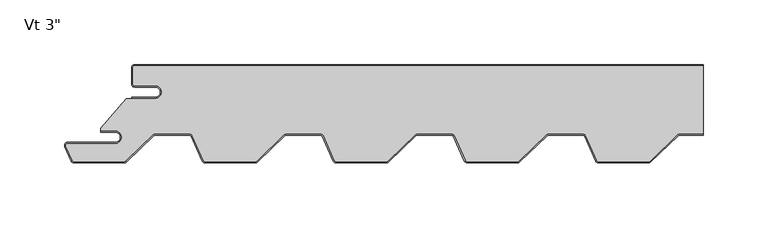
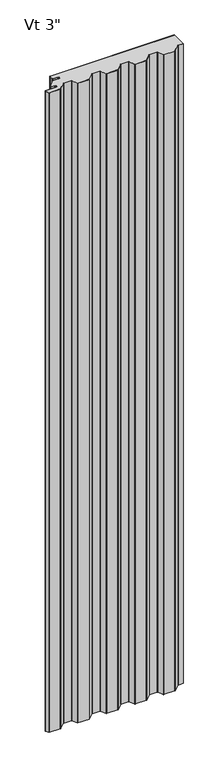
"""IFC4 building model written with IfcOpenShell, lengths in millimetres: plate geometry."""

from ifc_helpers import new_model, si_unit, point, frame_2d, origin, origin_with_axes, place, context, project, spatial, polyline, circle_curve, trimmed, segment, composite_curve, outline, extrude, source, transform, mapped, element, save


def plate_04d943ac(model_context):
    return source(origin(), model_context, "Body", "SweptSolid", [
        extrude(outline(composite_curve([segment(trimmed(circle_curve(frame_2d((-202.9499998, -21.4324412)), 4.96875), [point((-202.9499998, -26.4011912))], [point((-202.9499998, -16.4636912))], True, "CARTESIAN"), True, "CONTINUOUS"), segment(polyline([(-202.9499998, -16.4636912), (-218.8249998, -16.4636912)]), True, "CONTINUOUS"), segment(trimmed(circle_curve(frame_2d((-218.8249998, -15.0824412)), 1.38125), [point((-218.8249998, -16.4636912))], [point((-220.2062498, -15.0824412))], False, "CARTESIAN"), True, "CONTINUOUS"), segment(polyline([(-220.2062498, -15.0824412), (-220.2062498, -2.3824412)]), True, "CONTINUOUS"), segment(trimmed(circle_curve(frame_2d((-218.8249998, -2.3824412)), 1.38125), [point((-220.2062498, -2.3824412))], [point((-218.8249998, -1.0011912))], False, "CARTESIAN"), True, "CONTINUOUS"), segment(polyline([(-218.8249998, -1.0011912), (221.9999998, -1.0011912), (221.9999998, -53.6862), (203.4679504, -53.6862)]), True, "CONTINUOUS"), segment(trimmed(circle_curve(frame_2d((203.4679504, -56.2737)), 2.5875), [point((203.4679504, -53.6862))], [point((201.6682998, -54.4145567))], True, "CARTESIAN"), True, "CONTINUOUS"), segment(polyline([(201.6682998, -54.4145567), (180.5973964, -74.8111912)]), True, "CONTINUOUS"), segment(trimmed(circle_curve(frame_2d((179.6367133, -73.81875)), 1.38125), [point((180.5973964, -74.8111912))], [point((179.6367133, -75.2))], False, "CARTESIAN"), True, "CONTINUOUS"), segment(polyline([(179.6367133, -75.2), (140.5000059, -75.2)]), True, "CONTINUOUS"), segment(trimmed(circle_curve(frame_2d((140.5000059, -73.81875)), 1.38125), [point((140.5000059, -75.2))], [point((139.2370056, -74.3779296))], False, "CARTESIAN"), True, "CONTINUOUS"), segment(polyline([(139.2370056, -74.3779296), (130.7577807, -55.2261871)]), True, "CONTINUOUS"), segment(trimmed(circle_curve(frame_2d((128.3917983, -56.2737)), 2.5875), [point((130.7577807, -55.2261871))], [point((128.3917983, -53.6862))], True, "CARTESIAN"), True, "CONTINUOUS"), segment(polyline([(128.3917983, -53.6862), (101.8679504, -53.6862)]), True, "CONTINUOUS"), segment(trimmed(circle_curve(frame_2d((101.8679504, -56.2737)), 2.5875), [point((101.8679504, -53.6862))], [point((100.0682998, -54.4145567))], True, "CARTESIAN"), True, "CONTINUOUS"), segment(polyline([(100.0682998, -54.4145567), (78.9973964, -74.8111912)]), True, "CONTINUOUS"), segment(trimmed(circle_curve(frame_2d((78.0367133, -73.81875)), 1.38125), [point((78.9973964, -74.8111912))], [point((78.0367133, -75.2))], False, "CARTESIAN"), True, "CONTINUOUS"), segment(polyline([(78.0367133, -75.2), (38.9000059, -75.2)]), True, "CONTINUOUS"), segment(trimmed(circle_curve(frame_2d((38.9000059, -73.81875)), 1.38125), [point((38.9000059, -75.2))], [point((37.6370056, -74.3779296))], False, "CARTESIAN"), True, "CONTINUOUS"), segment(polyline([(37.6370056, -74.3779296), (29.1577807, -55.2261871)]), True, "CONTINUOUS"), segment(trimmed(circle_curve(frame_2d((26.7917983, -56.2737)), 2.5875), [point((29.1577807, -55.2261871))], [point((26.7917983, -53.6862))], True, "CARTESIAN"), True, "CONTINUOUS"), segment(polyline([(26.7917983, -53.6862), (0.2679504, -53.6862)]), True, "CONTINUOUS"), segment(trimmed(circle_curve(frame_2d((0.2679504, -56.2737)), 2.5875), [point((0.2679504, -53.6862))], [point((-1.5317002, -54.4145567))], True, "CARTESIAN"), True, "CONTINUOUS"), segment(polyline([(-1.5317002, -54.4145567), (-22.6026036, -74.8111912)]), True, "CONTINUOUS"), segment(trimmed(circle_curve(frame_2d((-23.5632867, -73.81875)), 1.38125), [point((-22.6026036, -74.8111912))], [point((-23.5632867, -75.2))], False, "CARTESIAN"), True, "CONTINUOUS"), segment(polyline([(-23.5632867, -75.2), (-62.6999941, -75.2)]), True, "CONTINUOUS"), segment(trimmed(circle_curve(frame_2d((-62.6999941, -73.81875)), 1.38125), [point((-62.6999941, -75.2))], [point((-63.9629944, -74.3779296))], False, "CARTESIAN"), True, "CONTINUOUS"), segment(polyline([(-63.9629944, -74.3779296), (-72.4422193, -55.2261871)]), True, "CONTINUOUS"), segment(trimmed(circle_curve(frame_2d((-74.8082017, -56.2737)), 2.5875), [point((-72.4422193, -55.2261871))], [point((-74.8082017, -53.6862))], True, "CARTESIAN"), True, "CONTINUOUS"), segment(polyline([(-74.8082017, -53.6862), (-101.3320496, -53.6862)]), True, "CONTINUOUS"), segment(trimmed(circle_curve(frame_2d((-101.3320496, -56.2737)), 2.5875), [point((-101.3320496, -53.6862))], [point((-103.1317002, -54.4145567))], True, "CARTESIAN"), True, "CONTINUOUS"), segment(polyline([(-103.1317002, -54.4145567), (-124.2026036, -74.8111912)]), True, "CONTINUOUS"), segment(trimmed(circle_curve(frame_2d((-125.1632867, -73.81875)), 1.38125), [point((-124.2026036, -74.8111912))], [point((-125.1632867, -75.2))], False, "CARTESIAN"), True, "CONTINUOUS"), segment(polyline([(-125.1632867, -75.2), (-164.2999941, -75.2)]), True, "CONTINUOUS"), segment(trimmed(circle_curve(frame_2d((-164.2999941, -73.81875)), 1.38125), [point((-164.2999941, -75.2))], [point((-165.5629944, -74.3779296))], False, "CARTESIAN"), True, "CONTINUOUS"), segment(polyline([(-165.5629944, -74.3779296), (-174.0422193, -55.2261871)]), True, "CONTINUOUS"), segment(trimmed(circle_curve(frame_2d((-176.4082017, -56.2737)), 2.5875), [point((-174.0422193, -55.2261871))], [point((-176.4082017, -53.6862))], True, "CARTESIAN"), True, "CONTINUOUS"), segment(polyline([(-176.4082017, -53.6862), (-202.9320496, -53.6862)]), True, "CONTINUOUS"), segment(trimmed(circle_curve(frame_2d((-202.9320496, -56.2737)), 2.5875), [point((-202.9320496, -53.6862))], [point((-204.7317002, -54.4145567))], True, "CARTESIAN"), True, "CONTINUOUS"), segment(polyline([(-204.7317002, -54.4145567), (-225.593943, -74.6092077)]), True, "CONTINUOUS"), segment(trimmed(circle_curve(frame_2d((-227.0536944, -73.1012)), 2.0988), [point((-225.593943, -74.6092077))], [point((-227.0536944, -75.2))], False, "CARTESIAN"), True, "CONTINUOUS"), segment(polyline([(-227.0536944, -75.2), (-265.8999941, -75.2)]), True, "CONTINUOUS"), segment(trimmed(circle_curve(frame_2d((-265.8999941, -73.81875)), 1.38125), [point((-265.8999941, -75.2))], [point((-267.1629944, -74.3779296))], False, "CARTESIAN"), True, "CONTINUOUS"), segment(polyline([(-267.1629944, -74.3779296), (-272.0824051, -63.2666208)]), True, "CONTINUOUS"), segment(trimmed(circle_curve(frame_2d((-270.8194048, -62.7074412)), 1.38125), [point((-272.0824051, -63.2666208))], [point((-270.8194048, -61.3261912))], False, "CARTESIAN"), True, "CONTINUOUS"), segment(polyline([(-270.8194048, -61.3261912), (-233.9062498, -61.3261912)]), True, "CONTINUOUS"), segment(trimmed(circle_curve(frame_2d((-233.9062498, -56.3574412)), 4.96875), [point((-233.9062498, -61.3261912))], [point((-233.9062498, -51.3886912))], True, "CARTESIAN"), True, "CONTINUOUS"), segment(polyline([(-233.9062498, -51.3886912), (-245.0187498, -51.3886912), (-245.0187498, -49.233822), (-225.197661, -26.4011912), (-202.9499998, -26.4011912)]), True, "CONTINUOUS")], self_intersect=False)), origin_with_axes(), (0.0, 0.0, 1.0), 2400.0),
        extrude(outline(composite_curve([segment(polyline([(-221.2062498, -25.4), (-202.9499998, -25.4)]), True, "CONTINUOUS"), segment(trimmed(circle_curve(frame_2d((-202.9499998, -21.43125)), 3.96875), [point((-202.9499998, -25.4))], [point((-202.9499998, -17.4625))], True, "CARTESIAN"), True, "CONTINUOUS"), segment(polyline([(-202.9499998, -17.4625), (-218.8249998, -17.4625)]), True, "CONTINUOUS"), segment(trimmed(circle_curve(frame_2d((-218.8249998, -15.08125)), 2.38125), [point((-218.8249998, -17.4625))], [point((-221.2062498, -15.08125))], False, "CARTESIAN"), True, "CONTINUOUS"), segment(polyline([(-221.2062498, -15.08125), (-221.2062498, -2.38125)]), True, "CONTINUOUS"), segment(trimmed(circle_curve(frame_2d((-218.8249998, -2.38125)), 2.38125), [point((-221.2062498, -2.38125))], [point((-218.8249998, 0.0))], False, "CARTESIAN"), True, "CONTINUOUS"), segment(polyline([(-218.8249998, 0.0), (221.9999998, 0.0), (221.9999998, -1.0), (-218.8249998, -1.0)]), True, "CONTINUOUS"), segment(trimmed(circle_curve(frame_2d((-218.8249998, -2.38125)), 1.38125), [point((-218.8249998, -1.0))], [point((-220.2062498, -2.38125))], True, "CARTESIAN"), True, "CONTINUOUS"), segment(polyline([(-220.2062498, -2.38125), (-220.2062498, -15.08125)]), True, "CONTINUOUS"), segment(trimmed(circle_curve(frame_2d((-218.8249998, -15.08125)), 1.38125), [point((-220.2062498, -15.08125))], [point((-218.8249998, -16.4625))], True, "CARTESIAN"), True, "CONTINUOUS"), segment(polyline([(-218.8249998, -16.4625), (-202.9499998, -16.4625)]), True, "CONTINUOUS"), segment(trimmed(circle_curve(frame_2d((-202.9499998, -21.43125)), 4.96875), [point((-202.9499998, -16.4625))], [point((-202.9499998, -26.4))], False, "CARTESIAN"), True, "CONTINUOUS"), segment(polyline([(-202.9499998, -26.4), (-221.2062498, -26.4), (-221.2062498, -25.4)]), True, "CONTINUOUS")], self_intersect=False)), origin_with_axes(), (0.0, 0.0, 1.0), 2400.0),
        extrude(outline(composite_curve([segment(trimmed(circle_curve(frame_2d((-233.9062498, -56.3574412)), 3.96875), [point((-233.9062498, -60.3261912))], [point((-233.9062498, -52.3886912))], True, "CARTESIAN"), True, "CONTINUOUS"), segment(polyline([(-233.9062498, -52.3886912), (-245.0187498, -52.3886912), (-245.0187498, -51.3886912), (-233.9062498, -51.3886912)]), True, "CONTINUOUS"), segment(trimmed(circle_curve(frame_2d((-233.9062498, -56.3574412)), 4.96875), [point((-233.9062498, -51.3886912))], [point((-233.9062498, -61.3261912))], False, "CARTESIAN"), True, "CONTINUOUS"), segment(polyline([(-233.9062498, -61.3261912), (-270.8194048, -61.3261912)]), True, "CONTINUOUS"), segment(trimmed(circle_curve(frame_2d((-270.8194048, -62.7074412)), 1.38125), [point((-270.8194048, -61.3261912))], [point((-272.0824051, -63.2666208))], True, "CARTESIAN"), True, "CONTINUOUS"), segment(polyline([(-272.0824051, -63.2666208), (-267.1629944, -74.3779296)]), True, "CONTINUOUS"), segment(trimmed(circle_curve(frame_2d((-265.8999941, -73.81875)), 1.38125), [point((-267.1629944, -74.3779296))], [point((-265.8999941, -75.2))], True, "CARTESIAN"), True, "CONTINUOUS"), segment(polyline([(-265.8999941, -75.2), (-227.0536944, -75.2)]), True, "CONTINUOUS"), segment(trimmed(circle_curve(frame_2d((-227.0536944, -73.1012)), 2.0988), [point((-227.0536944, -75.2))], [point((-225.593943, -74.6092077))], True, "CARTESIAN"), True, "CONTINUOUS"), segment(polyline([(-225.593943, -74.6092077), (-204.7317002, -54.4145567)]), True, "CONTINUOUS"), segment(trimmed(circle_curve(frame_2d((-202.9320496, -56.2737)), 2.5875), [point((-204.7317002, -54.4145567))], [point((-202.9320496, -53.6862))], False, "CARTESIAN"), True, "CONTINUOUS"), segment(polyline([(-202.9320496, -53.6862), (-176.4082017, -53.6862)]), True, "CONTINUOUS"), segment(trimmed(circle_curve(frame_2d((-176.4082017, -56.2737)), 2.5875), [point((-176.4082017, -53.6862))], [point((-174.0422193, -55.2261871))], False, "CARTESIAN"), True, "CONTINUOUS"), segment(polyline([(-174.0422193, -55.2261871), (-165.5629944, -74.3779296)]), True, "CONTINUOUS"), segment(trimmed(circle_curve(frame_2d((-164.2999941, -73.81875)), 1.38125), [point((-165.5629944, -74.3779296))], [point((-164.2999941, -75.2))], True, "CARTESIAN"), True, "CONTINUOUS"), segment(polyline([(-164.2999941, -75.2), (-125.1632867, -75.2)]), True, "CONTINUOUS"), segment(trimmed(circle_curve(frame_2d((-125.1632867, -73.81875)), 1.38125), [point((-125.1632867, -75.2))], [point((-124.2026036, -74.8111912))], True, "CARTESIAN"), True, "CONTINUOUS"), segment(polyline([(-124.2026036, -74.8111912), (-103.1317002, -54.4145567)]), True, "CONTINUOUS"), segment(trimmed(circle_curve(frame_2d((-101.3320496, -56.2737)), 2.5875), [point((-103.1317002, -54.4145567))], [point((-101.3320496, -53.6862))], False, "CARTESIAN"), True, "CONTINUOUS"), segment(polyline([(-101.3320496, -53.6862), (-74.8082017, -53.6862)]), True, "CONTINUOUS"), segment(trimmed(circle_curve(frame_2d((-74.8082017, -56.2737)), 2.5875), [point((-74.8082017, -53.6862))], [point((-72.4422193, -55.2261871))], False, "CARTESIAN"), True, "CONTINUOUS"), segment(polyline([(-72.4422193, -55.2261871), (-63.9629944, -74.3779296)]), True, "CONTINUOUS"), segment(trimmed(circle_curve(frame_2d((-62.6999941, -73.81875)), 1.38125), [point((-63.9629944, -74.3779296))], [point((-62.6999941, -75.2))], True, "CARTESIAN"), True, "CONTINUOUS"), segment(polyline([(-62.6999941, -75.2), (-23.5632867, -75.2)]), True, "CONTINUOUS"), segment(trimmed(circle_curve(frame_2d((-23.5632867, -73.81875)), 1.38125), [point((-23.5632867, -75.2))], [point((-22.6026036, -74.8111912))], True, "CARTESIAN"), True, "CONTINUOUS"), segment(polyline([(-22.6026036, -74.8111912), (-1.5317002, -54.4145567)]), True, "CONTINUOUS"), segment(trimmed(circle_curve(frame_2d((0.2679504, -56.2737)), 2.5875), [point((-1.5317002, -54.4145567))], [point((0.2679504, -53.6862))], False, "CARTESIAN"), True, "CONTINUOUS"), segment(polyline([(0.2679504, -53.6862), (26.7917983, -53.6862)]), True, "CONTINUOUS"), segment(trimmed(circle_curve(frame_2d((26.7917983, -56.2737)), 2.5875), [point((26.7917983, -53.6862))], [point((29.1577807, -55.2261871))], False, "CARTESIAN"), True, "CONTINUOUS"), segment(polyline([(29.1577807, -55.2261871), (37.6370056, -74.3779296)]), True, "CONTINUOUS"), segment(trimmed(circle_curve(frame_2d((38.9000059, -73.81875)), 1.38125), [point((37.6370056, -74.3779296))], [point((38.9000059, -75.2))], True, "CARTESIAN"), True, "CONTINUOUS"), segment(polyline([(38.9000059, -75.2), (78.0367133, -75.2)]), True, "CONTINUOUS"), segment(trimmed(circle_curve(frame_2d((78.0367133, -73.81875)), 1.38125), [point((78.0367133, -75.2))], [point((78.9973964, -74.8111912))], True, "CARTESIAN"), True, "CONTINUOUS"), segment(polyline([(78.9973964, -74.8111912), (100.0682998, -54.4145567)]), True, "CONTINUOUS"), segment(trimmed(circle_curve(frame_2d((101.8679504, -56.2737)), 2.5875), [point((100.0682998, -54.4145567))], [point((101.8679504, -53.6862))], False, "CARTESIAN"), True, "CONTINUOUS"), segment(polyline([(101.8679504, -53.6862), (128.3917983, -53.6862)]), True, "CONTINUOUS"), segment(trimmed(circle_curve(frame_2d((128.3917983, -56.2737)), 2.5875), [point((128.3917983, -53.6862))], [point((130.7577807, -55.2261871))], False, "CARTESIAN"), True, "CONTINUOUS"), segment(polyline([(130.7577807, -55.2261871), (139.2370056, -74.3779296)]), True, "CONTINUOUS"), segment(trimmed(circle_curve(frame_2d((140.5000059, -73.81875)), 1.38125), [point((139.2370056, -74.3779296))], [point((140.5000059, -75.2))], True, "CARTESIAN"), True, "CONTINUOUS"), segment(polyline([(140.5000059, -75.2), (179.6367133, -75.2)]), True, "CONTINUOUS"), segment(trimmed(circle_curve(frame_2d((179.6367133, -73.81875)), 1.38125), [point((179.6367133, -75.2))], [point((180.5973964, -74.8111912))], True, "CARTESIAN"), True, "CONTINUOUS"), segment(polyline([(180.5973964, -74.8111912), (201.6682998, -54.4145567)]), True, "CONTINUOUS"), segment(trimmed(circle_curve(frame_2d((203.4679504, -56.2737)), 2.5875), [point((201.6682998, -54.4145567))], [point((203.4679504, -53.6862))], False, "CARTESIAN"), True, "CONTINUOUS"), segment(polyline([(203.4679504, -53.6862), (221.9999998, -53.6862), (221.9999998, -54.6862), (203.4679504, -54.6862)]), True, "CONTINUOUS"), segment(trimmed(circle_curve(frame_2d((203.4679504, -56.2737)), 1.5875), [point((203.4679504, -54.6862))], [point((202.3638169, -55.1330662))], True, "CARTESIAN"), True, "CONTINUOUS"), segment(polyline([(202.3638169, -55.1330662), (181.2929135, -75.5297007)]), True, "CONTINUOUS"), segment(trimmed(circle_curve(frame_2d((179.6367133, -73.81875)), 2.38125), [point((181.2929135, -75.5297007))], [point((179.6367133, -76.2))], False, "CARTESIAN"), True, "CONTINUOUS"), segment(polyline([(179.6367133, -76.2), (140.5000059, -76.2)]), True, "CONTINUOUS"), segment(trimmed(circle_curve(frame_2d((140.5000059, -73.81875)), 2.38125), [point((140.5000059, -76.2))], [point((138.3226162, -74.7827655))], False, "CARTESIAN"), True, "CONTINUOUS"), segment(polyline([(138.3226162, -74.7827655), (129.8433914, -55.631023)]), True, "CONTINUOUS"), segment(trimmed(circle_curve(frame_2d((128.3917983, -56.2737)), 1.5875), [point((129.8433914, -55.631023))], [point((128.3917983, -54.6862))], True, "CARTESIAN"), True, "CONTINUOUS"), segment(polyline([(128.3917983, -54.6862), (101.8679504, -54.6862)]), True, "CONTINUOUS"), segment(trimmed(circle_curve(frame_2d((101.8679504, -56.2737)), 1.5875), [point((101.8679504, -54.6862))], [point((100.7638169, -55.1330662))], True, "CARTESIAN"), True, "CONTINUOUS"), segment(polyline([(100.7638169, -55.1330662), (79.6929135, -75.5297007)]), True, "CONTINUOUS"), segment(trimmed(circle_curve(frame_2d((78.0367133, -73.81875)), 2.38125), [point((79.6929135, -75.5297007))], [point((78.0367133, -76.2))], False, "CARTESIAN"), True, "CONTINUOUS"), segment(polyline([(78.0367133, -76.2), (38.9000059, -76.2)]), True, "CONTINUOUS"), segment(trimmed(circle_curve(frame_2d((38.9000059, -73.81875)), 2.38125), [point((38.9000059, -76.2))], [point((36.7226162, -74.7827655))], False, "CARTESIAN"), True, "CONTINUOUS"), segment(polyline([(36.7226162, -74.7827655), (28.2433914, -55.631023)]), True, "CONTINUOUS"), segment(trimmed(circle_curve(frame_2d((26.7917983, -56.2737)), 1.5875), [point((28.2433914, -55.631023))], [point((26.7917983, -54.6862))], True, "CARTESIAN"), True, "CONTINUOUS"), segment(polyline([(26.7917983, -54.6862), (0.2679504, -54.6862)]), True, "CONTINUOUS"), segment(trimmed(circle_curve(frame_2d((0.2679504, -56.2737)), 1.5875), [point((0.2679504, -54.6862))], [point((-0.8361831, -55.1330662))], True, "CARTESIAN"), True, "CONTINUOUS"), segment(polyline([(-0.8361831, -55.1330662), (-21.9070865, -75.5297007)]), True, "CONTINUOUS"), segment(trimmed(circle_curve(frame_2d((-23.5632867, -73.81875)), 2.38125), [point((-21.9070865, -75.5297007))], [point((-23.5632867, -76.2))], False, "CARTESIAN"), True, "CONTINUOUS"), segment(polyline([(-23.5632867, -76.2), (-62.6999941, -76.2)]), True, "CONTINUOUS"), segment(trimmed(circle_curve(frame_2d((-62.6999941, -73.81875)), 2.38125), [point((-62.6999941, -76.2))], [point((-64.8773838, -74.7827655))], False, "CARTESIAN"), True, "CONTINUOUS"), segment(polyline([(-64.8773838, -74.7827655), (-73.3566086, -55.631023)]), True, "CONTINUOUS"), segment(trimmed(circle_curve(frame_2d((-74.8082017, -56.2737)), 1.5875), [point((-73.3566086, -55.631023))], [point((-74.8082017, -54.6862))], True, "CARTESIAN"), True, "CONTINUOUS"), segment(polyline([(-74.8082017, -54.6862), (-101.3320496, -54.6862)]), True, "CONTINUOUS"), segment(trimmed(circle_curve(frame_2d((-101.3320496, -56.2737)), 1.5875), [point((-101.3320496, -54.6862))], [point((-102.4361831, -55.1330662))], True, "CARTESIAN"), True, "CONTINUOUS"), segment(polyline([(-102.4361831, -55.1330662), (-123.5070865, -75.5297007)]), True, "CONTINUOUS"), segment(trimmed(circle_curve(frame_2d((-125.1632867, -73.81875)), 2.38125), [point((-123.5070865, -75.5297007))], [point((-125.1632867, -76.2))], False, "CARTESIAN"), True, "CONTINUOUS"), segment(polyline([(-125.1632867, -76.2), (-164.2999941, -76.2)]), True, "CONTINUOUS"), segment(trimmed(circle_curve(frame_2d((-164.2999941, -73.81875)), 2.38125), [point((-164.2999941, -76.2))], [point((-166.4773838, -74.7827655))], False, "CARTESIAN"), True, "CONTINUOUS"), segment(polyline([(-166.4773838, -74.7827655), (-174.9566086, -55.631023)]), True, "CONTINUOUS"), segment(trimmed(circle_curve(frame_2d((-176.4082017, -56.2737)), 1.5875), [point((-174.9566086, -55.631023))], [point((-176.4082017, -54.6862))], True, "CARTESIAN"), True, "CONTINUOUS"), segment(polyline([(-176.4082017, -54.6862), (-202.9320496, -54.6862)]), True, "CONTINUOUS"), segment(trimmed(circle_curve(frame_2d((-202.9320496, -56.2737)), 1.5875), [point((-202.9320496, -54.6862))], [point((-204.0361831, -55.1330662))], True, "CARTESIAN"), True, "CONTINUOUS"), segment(polyline([(-204.0361831, -55.1330662), (-224.8984258, -75.3277172)]), True, "CONTINUOUS"), segment(trimmed(circle_curve(frame_2d((-227.0536944, -73.1012)), 3.0988), [point((-224.8984258, -75.3277172))], [point((-227.0536944, -76.2))], False, "CARTESIAN"), True, "CONTINUOUS"), segment(polyline([(-227.0536944, -76.2), (-265.8999941, -76.2)]), True, "CONTINUOUS"), segment(trimmed(circle_curve(frame_2d((-265.8999941, -73.81875)), 2.38125), [point((-265.8999941, -76.2))], [point((-268.0773838, -74.7827655))], False, "CARTESIAN"), True, "CONTINUOUS"), segment(polyline([(-268.0773838, -74.7827655), (-272.9967944, -63.6714567)]), True, "CONTINUOUS"), segment(trimmed(circle_curve(frame_2d((-270.8194048, -62.7074412)), 2.38125), [point((-272.9967944, -63.6714567))], [point((-270.8194048, -60.3261912))], False, "CARTESIAN"), True, "CONTINUOUS"), segment(polyline([(-270.8194048, -60.3261912), (-233.9062498, -60.3261912)]), True, "CONTINUOUS")], self_intersect=False)), origin_with_axes(), (0.0, 0.0, 1.0), 2400.0),
    ])


if __name__ == "__main__":
    model = new_model("IFC4")
    model_context = context("Model", 3, world=origin())
    ifc_project = project(units=[si_unit("LENGTHUNIT", "METRE", prefix="MILLI")], contexts=[model_context])
    site = spatial("IfcSite", under=ifc_project)
    building = spatial("IfcBuilding", under=site)
    placement = place(None, origin())
    plate_shape = plate_04d943ac(model_context)
    element("IfcPlate", 1, ObjectType="KIP-20-DWR-R19-CP-Vt-S : Vt 3\"", at=placement, inside=building, context=model_context, shape_type="MappedRepresentation", body=[
        mapped(plate_shape, transform((0.0, 0.0, 0.0), x_axis=(1.0, 0.0, 0.0), y_axis=(0.0, 1.0, 0.0), z_axis=(0.0, 0.0, 1.0))),
    ])
    save(model, "model.ifc")
